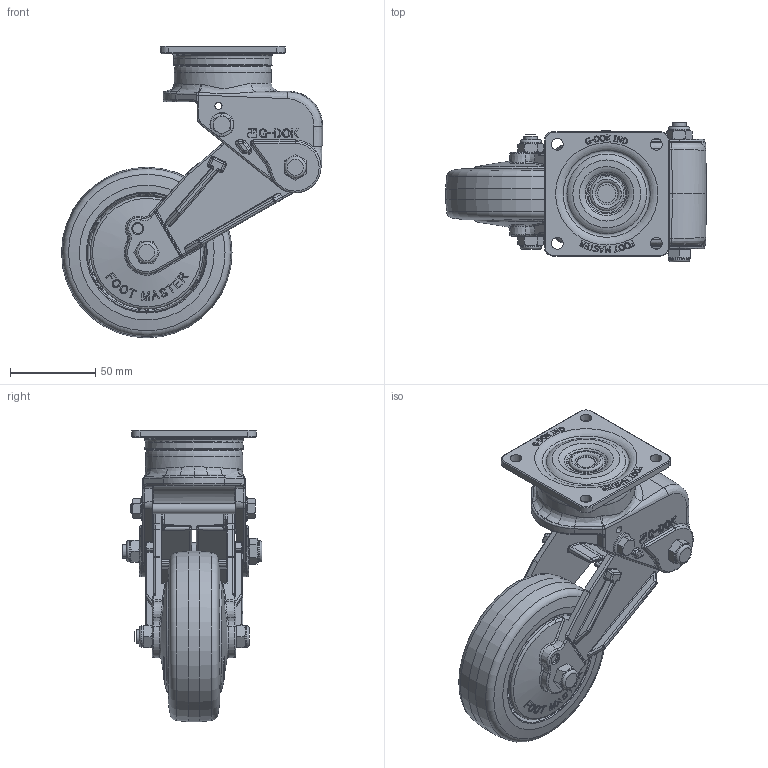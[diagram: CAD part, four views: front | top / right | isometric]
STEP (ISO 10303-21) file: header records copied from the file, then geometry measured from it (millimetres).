
FILE_DESCRIPTION(/* description */ (''),/* implementation_level */ '2;1');
FILE_NAME(/* name */ 'Z:\1.기술연구소\2.연구개발 진행중\25.충격흡수식_BBB\JYH\GDS-100-BB\2020년도\3.도면\1.3D\STEP-FILE\홈페이지용 3D\내부화 최종\GDSB-100-ASF-LUD.stp',/* time_stamp */ '2021-10-08T19:12:07+09:00',/* author */ ('admin'),/* organization */ (''),/* preprocessor_version */ 'ST-DEVELOPER v18.1',/* originating_system */ 'Autodesk Inventor 2021',/* authorisation */ '');
FILE_SCHEMA (('AUTOMOTIVE_DESIGN { 1 0 10303 214 3 1 1 }'));
Length unit declared in the file: millimetre
Products named in the file (1): GDSB-100-ASF-LUD
Bounding box: 153.02 x 82 x 171 mm (x, y, z)
Volume: 364291.5 mm3; surface area: 115931.9 mm2
Topology: 1 solids, 2 shells, 2591 faces, 6463 edges, 3930 vertices
Faces by surface type: bspline 949, plane 876, cylinder 372, cone 191, torus 175, sphere 28
Full cylindrical faces by diameter (mm): 4.2 x2, 6 x2, 6.2 x2, 7 x4, 7.4 x1, 7.95 x5, 8.2 x2, 9.95 x1, 10.2 x4, 10.7 x1, 11.6 x2, 12.5 x4, 14 x2, 20 x1, 53.665 x2, 57 x1, 100 x1
Entity records: 102015 total; most frequent: CARTESIAN_POINT 42919, ORIENTED_EDGE 12786, DIRECTION 10266, EDGE_CURVE 6393, VERTEX_POINT 3930, AXIS2_PLACEMENT_3D 3915, EDGE_LOOP 2740, FACE_OUTER_BOUND 2591
